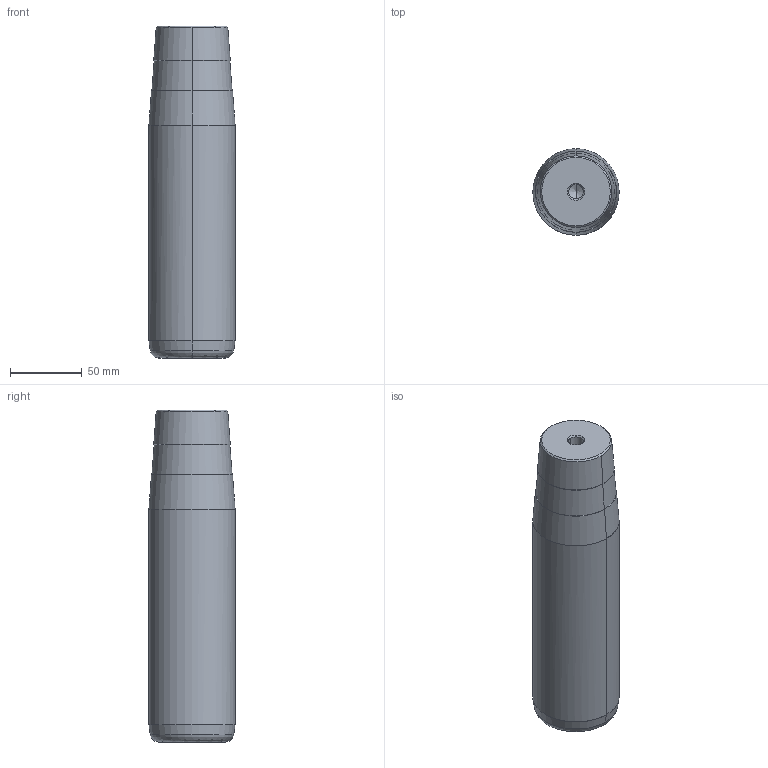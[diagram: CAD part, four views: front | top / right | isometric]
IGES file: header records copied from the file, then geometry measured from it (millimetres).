
Start section: START RECORD GO HERE.
Global section: file name: 722-60x180x231.igs; native system: DASSAULT SYSTEMES CATIA V5 R20 - www.3ds.com; preprocessor: CATIA Version 5 Release 20 ; author: Utente; organization: NB04-ASUS; date: 20210107.203428; units: millimetre
Bounding box: 60 x 60 x 231 mm (x, y, z)
Surface area: 48289.7 mm2 (no closed solid volume)
Topology: 0 solids, 0 shells, 32 faces, 192 edges, 188 vertices
Faces by surface type: revolution 30, plane 2
